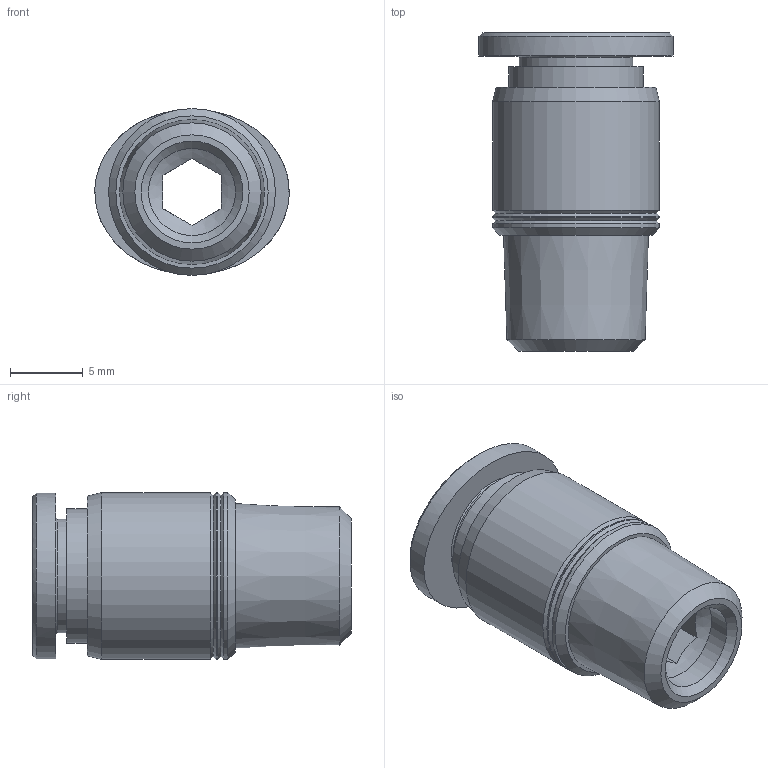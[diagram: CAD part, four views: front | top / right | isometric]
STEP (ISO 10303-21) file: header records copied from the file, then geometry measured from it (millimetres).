
FILE_DESCRIPTION((''),'2;1');
FILE_NAME('C:\Users\user0117\Desktop\김진일\G-FITTING INCH\1-4\PDF\G-FITTING INCH (STEP)\GPOC 1_4-R01.stp','2020-04-20T13:00:26',('user0117'),(''),'Autodesk Inventor 2013','Autodesk Inventor 2013','');
FILE_SCHEMA(('AUTOMOTIVE_DESIGN { 1 0 10303 214 1 1 1 1 }'));
Length unit declared in the file: millimetre
Products named in the file (5): GPOC 1_4-R01; GPOC BODY 1_4-R01(BRASS); G-COLLAR G1-4C; COLLAR G1-4C; SLEEVE G1-4
Assembly tree (4 placements, depth 3):
  GPOC 1_4-R01
    GPOC BODY 1_4-R01(BRASS)
    G-COLLAR G1-4C
      COLLAR G1-4C
      SLEEVE G1-4
Bounding box: 13.39 x 21.95 x 11.5 mm (x, y, z)
Volume: 1308.6 mm3; surface area: 1532.9 mm2
Topology: 3 solids, 3 shells, 153 faces, 393 edges, 261 vertices
Faces by surface type: plane 104, bspline 22, cylinder 15, cone 12
Full cylindrical faces by diameter (mm): 6 x1, 6.55 x3, 7.85 x1, 9.3 x1, 11.5 x3
Entity records: 4954 total; most frequent: CARTESIAN_POINT 1251, ORIENTED_EDGE 730, DIRECTION 703, EDGE_CURVE 365, VECTOR 269, LINE 269, VERTEX_POINT 255, AXIS2_PLACEMENT_3D 217
